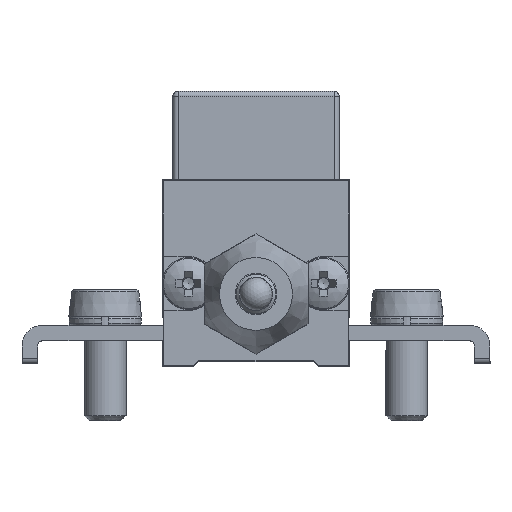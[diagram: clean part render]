
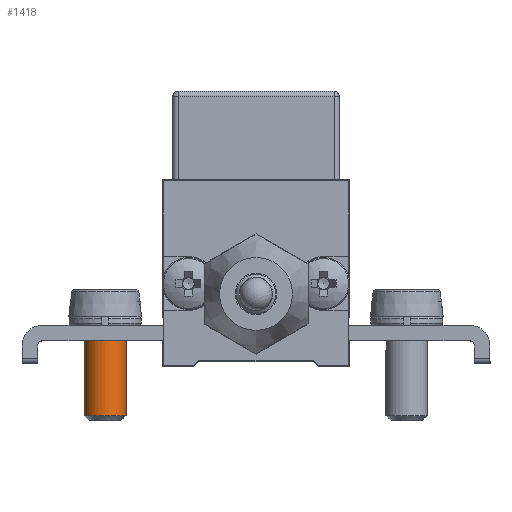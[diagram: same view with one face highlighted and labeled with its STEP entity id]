
A CAD part, front view. The second image highlights one B-rep face of the part: STEP entity #1418.
In plain terms, the highlighted cylindrical face has radius 2 mm (diameter 4 mm), a full revolution.
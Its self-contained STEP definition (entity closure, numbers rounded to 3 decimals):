
#1418 = ADVANCED_FACE( '', ( #2971, #2972 ), #2973, .T. );
#2971 = FACE_OUTER_BOUND( '', #6492, .T. );
#2972 = FACE_OUTER_BOUND( '', #6493, .T. );
#2973 = CYLINDRICAL_SURFACE( '', #6494, 2. );
#6492 = EDGE_LOOP( '', ( #9960 ) );
#6493 = EDGE_LOOP( '', ( #9961 ) );
#6494 = AXIS2_PLACEMENT_3D( '', #9962, #9963, #9964 );
#9960 = ORIENTED_EDGE( '', *, *, #11887, .T. );
#9961 = ORIENTED_EDGE( '', *, *, #11253, .T. );
#9962 = CARTESIAN_POINT( '', ( -14.5, 11., 32.8 ) );
#9963 = DIRECTION( '', ( 0., 0., -1. ) );
#9964 = DIRECTION( '', ( 1., 0., 0. ) );
#11253 = EDGE_CURVE( '', #14259, #14259, #14260, .T. );
#11887 = EDGE_CURVE( '', #15390, #15390, #15391, .F. );
#14259 = VERTEX_POINT( '', #19497 );
#14260 = CIRCLE( '', #19498, 2. );
#15390 = VERTEX_POINT( '', #21537 );
#15391 = CIRCLE( '', #21538, 2. );
#19497 = CARTESIAN_POINT( '', ( -12.5, 11., 3.8 ) );
#19498 = AXIS2_PLACEMENT_3D( '', #24871, #24872, #24873 );
#21537 = CARTESIAN_POINT( '', ( -16.5, 11., -4.7 ) );
#21538 = AXIS2_PLACEMENT_3D( '', #25708, #25709, #25710 );
#24871 = CARTESIAN_POINT( '', ( -14.5, 11., 3.8 ) );
#24872 = DIRECTION( '', ( 0., 0., -1. ) );
#24873 = DIRECTION( '', ( 1., 0., 0. ) );
#25708 = CARTESIAN_POINT( '', ( -14.5, 11., -4.7 ) );
#25709 = DIRECTION( '', ( 0., 0., -1. ) );
#25710 = DIRECTION( '', ( -1., 0., 0. ) );
